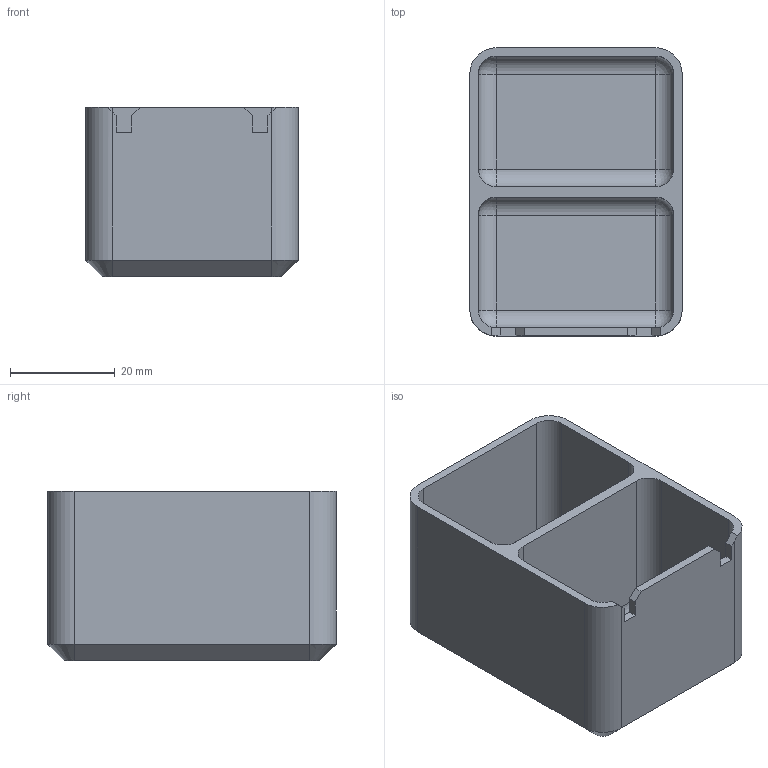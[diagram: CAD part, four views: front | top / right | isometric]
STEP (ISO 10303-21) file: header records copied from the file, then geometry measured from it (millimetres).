
FILE_DESCRIPTION(/* description */ (''),/* implementation_level */ '2;1');
FILE_NAME(/* name */ 'N:\3D_DATA1\治具\パーツケース内ボックス\2分割.stp',/* time_stamp */ '2022-02-04T21:03:48+09:00',/* author */ ('KONAN'),/* organization */ (''),/* preprocessor_version */ 'ST-DEVELOPER v17.2',/* originating_system */ 'Autodesk Inventor 2019',/* authorisation */ '');
FILE_SCHEMA (('AUTOMOTIVE_DESIGN { 1 0 10303 214 3 1 1 }'));
Length unit declared in the file: millimetre
Products named in the file (1): パーツケース内ボックスS
Bounding box: 40.5 x 55 x 32.4 mm (x, y, z)
Volume: 14485.4 mm3; surface area: 16871.1 mm2
Topology: 1 solids, 1 shells, 63 faces, 148 edges, 88 vertices
Faces by surface type: plane 31, cylinder 20, sphere 8, cone 4
Entity records: 1815 total; most frequent: DIRECTION 324, CARTESIAN_POINT 300, ORIENTED_EDGE 296, EDGE_CURVE 148, AXIS2_PLACEMENT_3D 112, LINE 100, VECTOR 100, VERTEX_POINT 88
